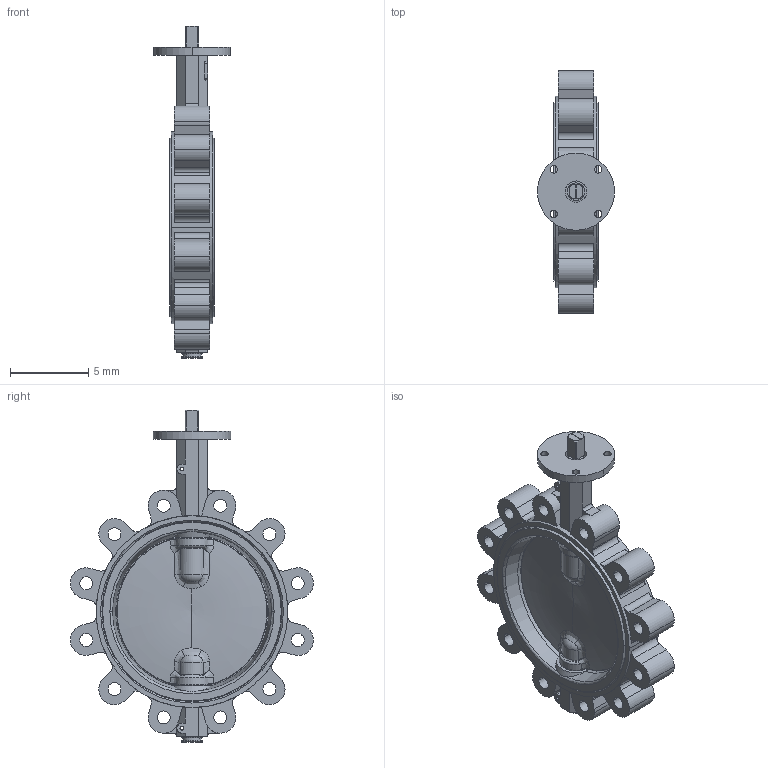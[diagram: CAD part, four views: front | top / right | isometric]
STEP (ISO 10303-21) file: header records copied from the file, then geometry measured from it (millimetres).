
FILE_DESCRIPTION(('Open CASCADE Model'),'2;1');
FILE_NAME('Open CASCADE Shape Model','2022-09-30T11:11:29',('Author'),( 'Open CASCADE'),'Open CASCADE STEP processor 7.3','Open CASCADE 7.3' ,'Unknown');
FILE_SCHEMA(('AUTOMOTIVE_DESIGN { 1 0 10303 214 1 1 1 1 }'));
Length unit declared in the file: millimetre
Products named in the file (6): Open CASCADE STEP translator 7.3 1; Open CASCADE STEP translator 7.3 1.1; Open CASCADE STEP translator 7.3 1.2; Open CASCADE STEP translator 7.3 1.3; Open CASCADE STEP translator 7.3 1.4; Open CASCADE STEP translator 7.3 1.5
Assembly tree (5 placements, depth 2):
  Open CASCADE STEP translator 7.3 1
    Open CASCADE STEP translator 7.3 1.1
    Open CASCADE STEP translator 7.3 1.2
    Open CASCADE STEP translator 7.3 1.3
    Open CASCADE STEP translator 7.3 1.4
    Open CASCADE STEP translator 7.3 1.5
Bounding box: 4.92 x 15.51 x 21.2 mm (x, y, z)
Volume: 263.2 mm3; surface area: 1027.6 mm2
Topology: 5 solids, 5 shells, 499 faces, 1310 edges, 827 vertices
Faces by surface type: cylinder 162, plane 157, bspline 92, torus 42, cone 38, revolution 8
Entity records: 61690 total; most frequent: CARTESIAN_POINT 37520, DIRECTION 4040, ORIENTED_EDGE 2588, PCURVE 2588, DEFINITIONAL_REPRESENTATION 2588, LINE 1955, VECTOR 1955, EDGE_CURVE 1294
